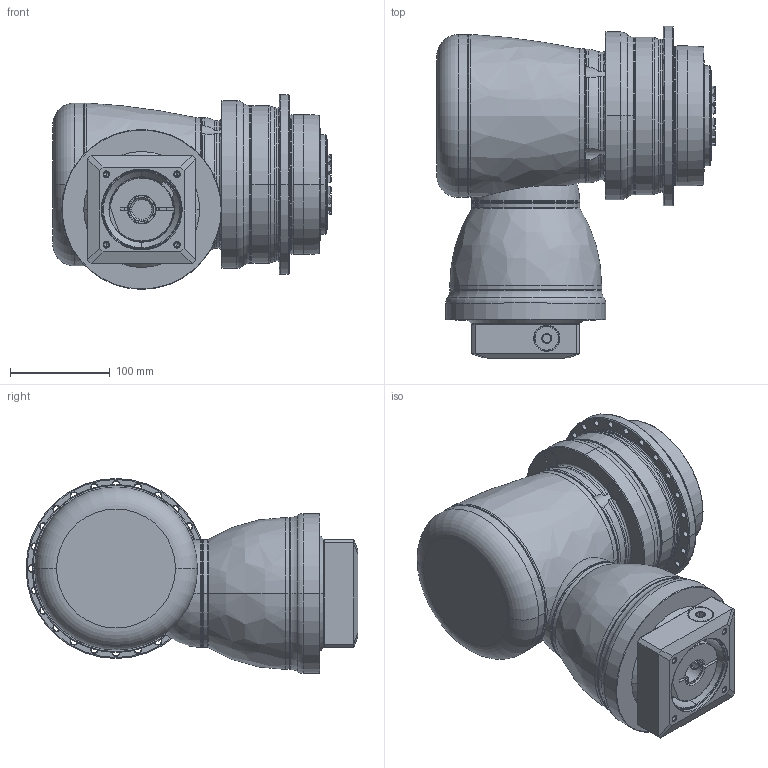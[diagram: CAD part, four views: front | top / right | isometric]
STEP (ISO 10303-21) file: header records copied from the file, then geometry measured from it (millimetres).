
FILE_DESCRIPTION((''),'2;1');
FILE_NAME('APCK140_2ST_24-P0409510201_ASM','2018-05-09T',('d01226'),(''),'PRO/ENGINEER BY PARAMETRIC TECHNOLOGY CORPORATION, 2008410','PRO/ENGINEER BY PARAMETRIC TECHNOLOGY CORPORATION, 2008410','');
FILE_SCHEMA(('CONFIG_CONTROL_DESIGN'));
Length unit declared in the file: millimetre
Products named in the file (13): P1008500002; P1802510011; P0278501003; P03595D0103; P1211500001; P1315500001; P1007501001; P1318501001; P0409510201; P0503500010; P0912550001; 21711418017; APCK140_2ST_24-P0409510201_ASM
Assembly tree (12 placements, depth 2):
  APCK140_2ST_24-P0409510201_ASM
    P1008500002
    P1802510011
    P0278501003
    P03595D0103
    P1211500001
    P1315500001
    P1007501001
    P1318501001
    P0409510201
    P0503500010
    P0912550001
    21711418017
Bounding box: 278.6 x 332 x 195 mm (x, y, z)
Volume: 7249254 mm3; surface area: 637815.9 mm2
Topology: 13 solids, 23 shells, 787 faces, 1871 edges, 1154 vertices
Faces by surface type: cylinder 262, cone 231, plane 145, torus 128, bspline 19, sphere 2
Entity records: 29327 total; most frequent: CARTESIAN_POINT 10543, DIRECTION 4208, ORIENTED_EDGE 3672, EDGE_CURVE 1857, AXIS2_PLACEMENT_3D 1839, VERTEX_POINT 1154, CIRCLE 1036, EDGE_LOOP 909
